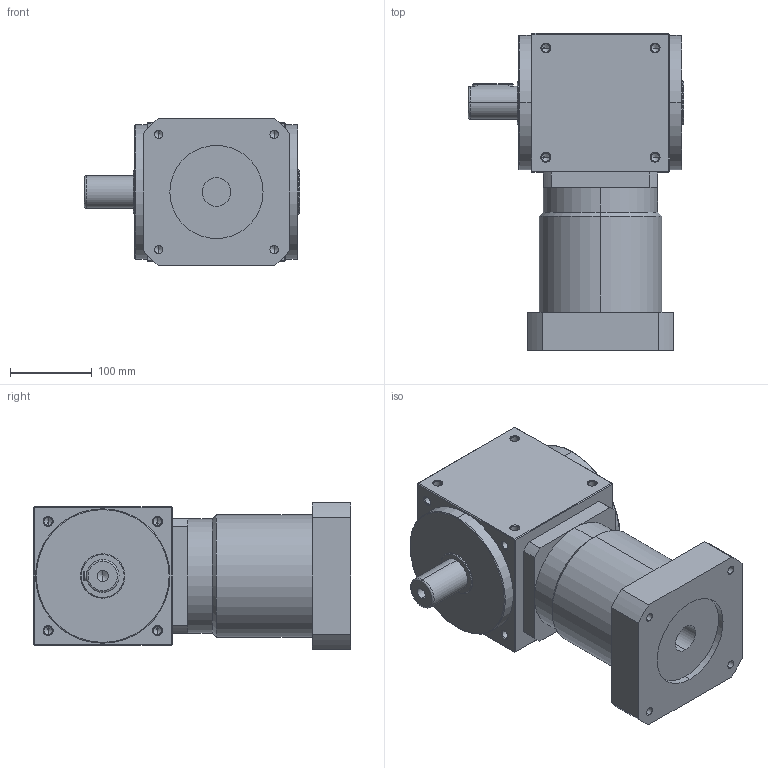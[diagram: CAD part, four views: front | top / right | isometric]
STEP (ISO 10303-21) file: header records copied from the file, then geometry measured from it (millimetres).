
FILE_DESCRIPTION (( 'STEP AP214' ), '1' );
FILE_NAME ('AT170-FL-L2 35-114.STEP', '2020-11-20T02:36:13', ( '微软用户' ), ( '微软中国' ), 'SwSTEP 2.0', 'SolidWorks 2014', '' );
FILE_SCHEMA (( 'AUTOMOTIVE_DESIGN' ));
Length unit declared in the file: millimetre
Products named in the file (2): AT170-FL-L2 35-114
Bounding box: 264 x 389 x 180 mm (x, y, z)
Volume: 9920257.3 mm3; surface area: 370081.2 mm2
Topology: 1 solids, 1 shells, 274 faces, 688 edges, 377 vertices
Faces by surface type: cylinder 118, cone 98, plane 52, torus 6
Entity records: 10857 total; most frequent: CARTESIAN_POINT 1713, DIRECTION 1298, ORIENTED_EDGE 1276, EDGE_CURVE 638, AXIS2_PLACEMENT_3D 498, VERTEX_POINT 377, EDGE_LOOP 309, LINE 302
